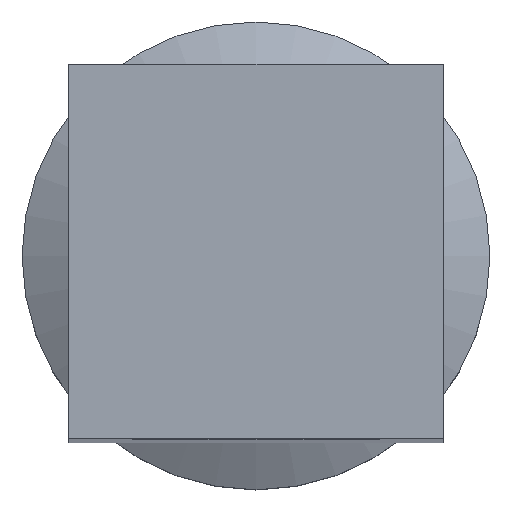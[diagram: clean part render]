
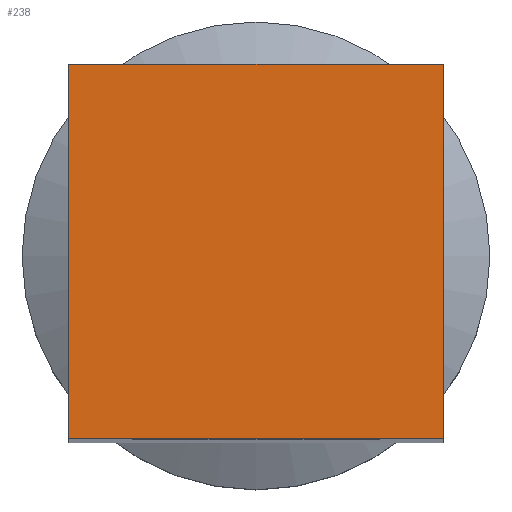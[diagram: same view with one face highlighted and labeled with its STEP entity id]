
A CAD part, top view. The second image highlights one B-rep face of the part: STEP entity #238.
In plain terms, the highlighted planar face has unit normal (0, 0, 1).
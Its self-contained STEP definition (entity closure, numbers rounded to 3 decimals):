
#91 = EDGE_CURVE('',#92,#94,#96,.T.);
#92 = VERTEX_POINT('',#93);
#93 = CARTESIAN_POINT('',(0.,0.,50.));
#94 = VERTEX_POINT('',#95);
#95 = CARTESIAN_POINT('',(0.,-8.,50.));
#96 = LINE('',#97,#98);
#97 = CARTESIAN_POINT('',(0.,0.,50.));
#98 = VECTOR('',#99,1.);
#99 = DIRECTION('',(0.,-1.,0.));
#146 = VERTEX_POINT('',#147);
#147 = CARTESIAN_POINT('',(8.,-8.,50.));
#153 = EDGE_CURVE('',#154,#146,#156,.T.);
#154 = VERTEX_POINT('',#155);
#155 = CARTESIAN_POINT('',(8.,0.,50.));
#156 = LINE('',#157,#158);
#157 = CARTESIAN_POINT('',(8.,0.,50.));
#158 = VECTOR('',#159,1.);
#159 = DIRECTION('',(0.,-1.,0.));
#199 = EDGE_CURVE('',#154,#92,#200,.T.);
#200 = LINE('',#201,#202);
#201 = CARTESIAN_POINT('',(8.,0.,50.));
#202 = VECTOR('',#203,1.);
#203 = DIRECTION('',(-1.,0.,0.));
#216 = EDGE_CURVE('',#146,#94,#217,.T.);
#217 = LINE('',#218,#219);
#218 = CARTESIAN_POINT('',(8.,-8.,50.));
#219 = VECTOR('',#220,1.);
#220 = DIRECTION('',(-1.,0.,0.));
#238 = ADVANCED_FACE('',(#239),#245,.F.);
#239 = FACE_BOUND('',#240,.F.);
#240 = EDGE_LOOP('',(#241,#242,#243,#244));
#241 = ORIENTED_EDGE('',*,*,#153,.T.);
#242 = ORIENTED_EDGE('',*,*,#216,.T.);
#243 = ORIENTED_EDGE('',*,*,#91,.F.);
#244 = ORIENTED_EDGE('',*,*,#199,.F.);
#245 = PLANE('',#246);
#246 = AXIS2_PLACEMENT_3D('',#247,#248,#249);
#247 = CARTESIAN_POINT('',(8.,0.,50.));
#248 = DIRECTION('',(0.,0.,-1.));
#249 = DIRECTION('',(-1.,0.,0.));
